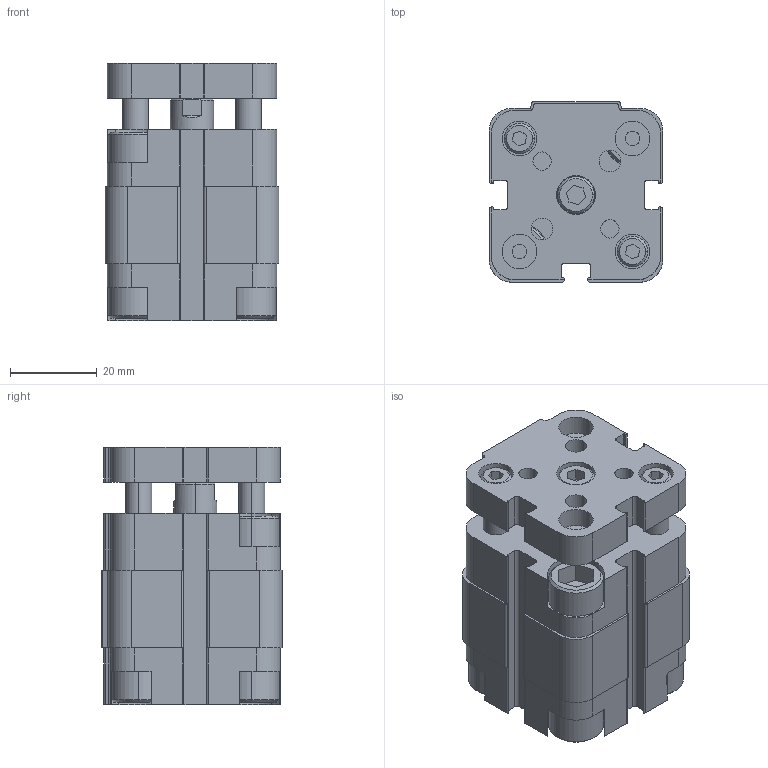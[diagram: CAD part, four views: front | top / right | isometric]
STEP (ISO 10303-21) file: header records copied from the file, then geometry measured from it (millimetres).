
FILE_DESCRIPTION (( 'STEP AP203' ), '1' );
FILE_NAME ('QFA0250005A.step', '2012-10-18T17:09:37', ( '' ), ( '' ), 'SwSTEP 2.0', 'SolidWorks 2012', '' );
FILE_SCHEMA (( 'CONFIG_CONTROL_DESIGN' ));
Length unit declared in the file: millimetre
Products named in the file (1): QFA0250005A
Bounding box: 40 x 41.5 x 59.2 mm (x, y, z)
Volume: 72230.2 mm3; surface area: 20914.2 mm2
Topology: 1 solids, 1 shells, 397 faces, 1054 edges, 693 vertices
Faces by surface type: plane 210, cylinder 156, cone 31
Entity records: 12545 total; most frequent: CARTESIAN_POINT 2243, DIRECTION 2188, ORIENTED_EDGE 2108, EDGE_CURVE 1054, AXIS2_PLACEMENT_3D 750, VERTEX_POINT 693, LINE 688, VECTOR 688
